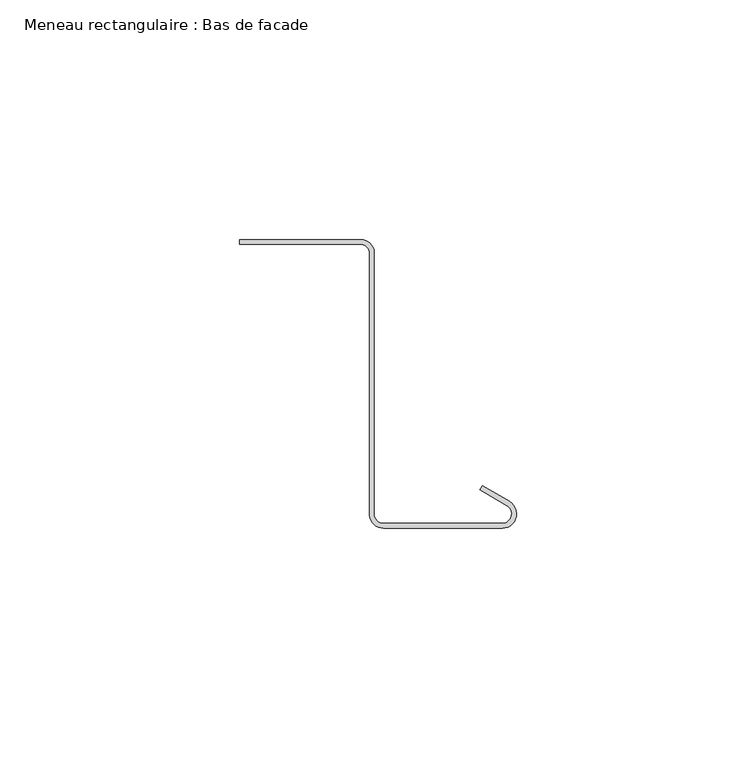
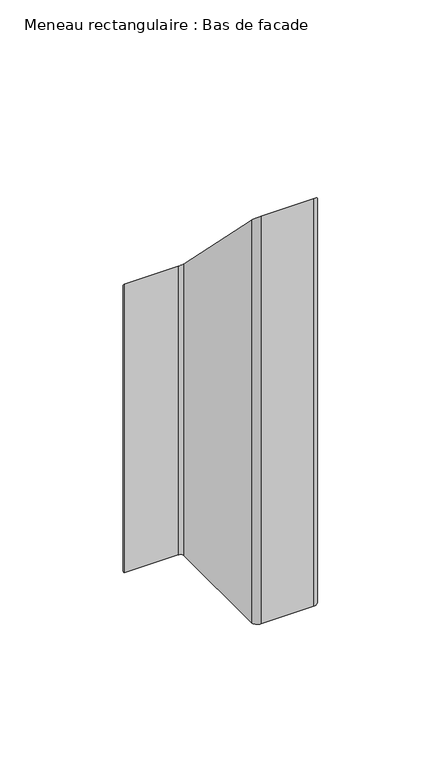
"""IFC4 building model written with IfcOpenShell, lengths in millimetres: member geometry, Meneau rectangulaire : Bas de facade."""

from ifc_helpers import new_model, si_unit, frame, origin, place, context, project, spatial, polyline, circle_curve, ellipse_curve, source, transform, mapped, element, save
from ifc_brep_helpers import plane_surface, cylinder_surface, revolved_surface, advanced_brep


def meneau_rectangulaire_bas_de_facade_f12c9721(model_context):
    return source(origin(), model_context, "Body", "AdvancedBrep", [
        advanced_brep(
        [(-32.4584179, 2.9588923, -145.0), (-29.7143802, 0.3898824, -145.0), (-29.7143802, -54.5495817, -145.0), (-27.735368, -56.2605998, -145.0), (-3.0, -56.2605998, -145.0), (-2.0, -52.528549, -145.0), (-7.6638061, -49.258549, -145.0), (-7.1638061, -48.3925235, -145.0), (-1.5, -51.6625235, -145.0), (-3.0, -57.2605998, -145.0), (-27.735368, -57.2605998, -145.0), (-30.7239521, -54.522067, -145.0), (-30.7239521, 0.4415475, -145.0), (-32.4584179, 1.9588923, -145.0), (-57.8548383, 1.9588923, -145.0), (-57.8548383, 2.9588923, -145.0), (-57.8548383, 2.9588923, -2.9588923), (-32.4584179, 2.9588923, -2.9588923), (-57.8548383, 1.9588923, -1.9588923), (-32.4584179, 1.9588923, -1.9588923), (-30.7239521, 0.4415475, -0.4415475), (-30.7239521, -54.522067, 54.522067), (-27.735368, -57.2605998, 57.2605998), (-3.0, -57.2605998, 57.2605998), (-1.5, -51.6625235, 51.6625235), (-7.1638061, -48.3925235, 48.3925235), (-7.6638061, -49.258549, 49.258549), (-2.0, -52.528549, 52.528549), (-3.0, -56.2605998, 56.2605998), (-27.735368, -56.2605998, 56.2605998), (-29.7143802, -54.5495817, 54.5495817), (-29.7143802, 0.3898824, -0.3898824)],
        [
            (0, 1, circle_curve(frame((-32.4584179, 0.2088923, -145.0), z_axis=(0.0, 0.0, -1.0), x_axis=(0.0, 1.0, 0.0)), 2.75)),
            (1, 2),
            (2, 3, circle_curve(frame((-27.735368, -54.2605998, -145.0), z_axis=(0.0, 0.0, 1.0), x_axis=(-0.9961946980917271, -0.08715574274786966, 0.0)), 2.0)),
            (3, 4),
            (4, 5, circle_curve(frame((-3.0, -54.2605998, -145.0), z_axis=(0.0, 0.0, 1.0), x_axis=(0.0, -1.0, 0.0)), 2.0)),
            (5, 6),
            (6, 7),
            (7, 8),
            (8, 9, circle_curve(frame((-3.0, -54.2605998, -145.0), z_axis=(0.0, 0.0, -1.0), x_axis=(0.0, -1.0, 0.0)), 3.0)),
            (9, 10),
            (10, 11, circle_curve(frame((-27.735368, -54.2605998, -145.0), z_axis=(0.0, 0.0, -1.0), x_axis=(-0.9961946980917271, -0.08715574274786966, 0.0)), 3.0)),
            (11, 12),
            (12, 13, circle_curve(frame((-32.4584179, 0.2088923, -145.0), z_axis=(0.0, 0.0, 1.0), x_axis=(0.0, 1.0, 0.0)), 1.75)),
            (13, 14),
            (14, 15),
            (15, 0),
            (16, 17),
            (17, 0),
            (15, 16),
            (18, 16),
            (14, 18),
            (19, 18),
            (13, 19),
            (20, 19, ellipse_curve(frame((-32.4584179, 0.2088923, -0.2088923), z_axis=(0.0, 0.7071067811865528, 0.7071067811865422), x_axis=(0.0, 0.7071067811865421, -0.7071067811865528)), 2.4748737, 1.75)),
            (12, 20),
            (21, 20),
            (11, 21),
            (22, 21, ellipse_curve(frame((-27.735368, -54.2605998, 54.2605998), z_axis=(0.0, -0.7071067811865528, -0.7071067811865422), x_axis=(0.0, -0.7071067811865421, 0.7071067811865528)), 4.2426407, 3.0)),
            (10, 22),
            (23, 22),
            (9, 23),
            (24, 23, ellipse_curve(frame((-3.0, -54.2605998, 54.2605998), z_axis=(0.0, -0.7071067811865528, -0.7071067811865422), x_axis=(0.0, -0.7071067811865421, 0.7071067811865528)), 4.2426407, 3.0)),
            (8, 24),
            (25, 24),
            (7, 25),
            (26, 25),
            (6, 26),
            (27, 26),
            (5, 27),
            (28, 27, ellipse_curve(frame((-3.0, -54.2605998, 54.2605998), z_axis=(0.0, 0.7071067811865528, 0.7071067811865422), x_axis=(0.0, 0.7071067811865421, -0.7071067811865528)), 2.8284271, 2.0)),
            (4, 28),
            (29, 28),
            (3, 29),
            (30, 29, ellipse_curve(frame((-27.735368, -54.2605998, 54.2605998), z_axis=(0.0, 0.7071067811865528, 0.7071067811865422), x_axis=(0.0, 0.7071067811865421, -0.7071067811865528)), 2.8284271, 2.0)),
            (2, 30),
            (31, 30),
            (1, 31),
            (17, 31, ellipse_curve(frame((-32.4584179, 0.2088923, -0.2088923), z_axis=(0.0, -0.7071067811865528, -0.7071067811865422), x_axis=(0.0, -0.7071067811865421, 0.7071067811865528)), 3.8890873, 2.75)),
        ],
        [
            plane_surface(frame((0.0, -63.8351035, -145.0), z_axis=(0.0, 0.0, -1.0), x_axis=(-1.0, 0.0, 0.0))),
            plane_surface(frame((-32.4584179, 2.9588923, 0.0), z_axis=(0.0, 1.0, 0.0), x_axis=(0.0, 0.0, -1.0))),
            plane_surface(frame((-57.8548383, 2.9588923, 0.0), z_axis=(-1.0, 0.0, 0.0), x_axis=(0.0, 0.0, -1.0))),
            plane_surface(frame((-57.8548383, 1.9588923, 0.0), z_axis=(0.0, -1.0, 0.0), x_axis=(0.0, 0.0, -1.0))),
            revolved_surface(polyline([(-32.4584179, 1.9588923, -145.0), (-32.4584179, 1.9588923, 1.5411076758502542)]), (-32.4584179, 0.2088923, 0.0), (0.0, 0.0, -1.0)),
            plane_surface(frame((-30.7239521, 0.4415475, 0.0), z_axis=(-1.0, 0.0, 0.0), x_axis=(0.0, 0.0, -1.0))),
            cylinder_surface(frame((-27.735368, -54.2605998, 0.0), z_axis=(0.0, 0.0, 1.0000000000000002), x_axis=(-0.9961946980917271, -0.08715574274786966, 0.0)), 3.0),
            plane_surface(frame((-27.735368, -57.2605998, 0.0), z_axis=(0.0, -1.0, 0.0), x_axis=(0.0, 0.0, -1.0))),
            cylinder_surface(frame((-3.0, -54.2605998, 0.0), z_axis=(0.0, 0.0, 1.0), x_axis=(0.0, -1.0, 0.0)), 3.0),
            plane_surface(frame((-1.5, -51.6625235, 0.0), z_axis=(0.5000000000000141, 0.8660254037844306, 0.0), x_axis=(0.0, 0.0, -1.0))),
            plane_surface(frame((-7.1638061, -48.3925235, 0.0), z_axis=(-0.8660254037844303, 0.5000000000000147, 0.0), x_axis=(0.0, 0.0, -1.0))),
            plane_surface(frame((-7.6638061, -49.258549, 0.0), z_axis=(-0.500000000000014, -0.8660254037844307, 0.0), x_axis=(0.0, 0.0, -1.0))),
            revolved_surface(polyline([(-3.0, -56.2605998, -145.0), (-3.0, -56.2605998, 56.2605998)]), (-3.0, -54.2605998, 0.0), (0.0, 0.0, -1.0)),
            plane_surface(frame((-3.0, -56.2605998, 0.0), z_axis=(0.0, 1.0, 0.0), x_axis=(0.0, 0.0, -1.0))),
            revolved_surface(polyline([(-29.727757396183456, -54.434911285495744, -145.00000000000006), (-29.727757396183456, -54.434911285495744, 56.26059980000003)]), (-27.735368, -54.2605998, 0.0), (0.0, 0.0, -1.0000000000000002)),
            plane_surface(frame((-29.7143802, -54.5495817, 0.0), z_axis=(1.0, 0.0, 0.0), x_axis=(0.0, 0.0, -1.0))),
            cylinder_surface(frame((-32.4584179, 0.2088923, 0.0), z_axis=(0.0, 0.0, 1.0), x_axis=(0.0, 1.0, 0.0)), 2.75),
            plane_surface(frame((-304.8, 0.0, 0.0), z_axis=(0.0, 0.7071067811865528, 0.7071067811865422), x_axis=(0.0, 0.7071067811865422, -0.7071067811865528))),
        ],
        [
            (0, [[1, 2, 3, 4, 5, 6, 7, 8, 9, 10, 11, 12, 13, 14, 15, 16]]),
            (1, [[17, 18, -16, 19]]),
            (2, [[20, -19, -15, 21]]),
            (3, [[22, -21, -14, 23]]),
            (4, [[24, -23, -13, 25]]),
            (5, [[26, -25, -12, 27]]),
            (6, [[28, -27, -11, 29]]),
            (7, [[30, -29, -10, 31]]),
            (8, [[32, -31, -9, 33]]),
            (9, [[34, -33, -8, 35]]),
            (10, [[36, -35, -7, 37]]),
            (11, [[38, -37, -6, 39]]),
            (12, [[40, -39, -5, 41]]),
            (13, [[42, -41, -4, 43]]),
            (14, [[44, -43, -3, 45]]),
            (15, [[46, -45, -2, 47]]),
            (16, [[48, -47, -1, -18]]),
            (17, [[-17, -20, -22, -24, -26, -28, -30, -32, -34, -36, -38, -40, -42, -44, -46, -48]]),
        ],
    ),
    ])


if __name__ == "__main__":
    model = new_model("IFC4")
    model_context = context("Model", 3, world=origin())
    ifc_project = project(units=[si_unit("LENGTHUNIT", "METRE", prefix="MILLI")], contexts=[model_context])
    site = spatial("IfcSite", under=ifc_project)
    building = spatial("IfcBuilding", under=site)
    placement = place(None, origin())
    meneau_rectangulaire_bas_de_facade_shape = meneau_rectangulaire_bas_de_facade_f12c9721(model_context)
    element("IfcMember", 1, ObjectType="Meneau rectangulaire : Bas de facade", at=placement, inside=building, context=model_context, shape_type="MappedRepresentation", body=[
        mapped(meneau_rectangulaire_bas_de_facade_shape, transform((0.0, 0.0, 0.0), x_axis=(1.0, 0.0, 0.0), y_axis=(0.0, 1.0, 0.0), z_axis=(0.0, 0.0, 1.0))),
    ])
    save(model, "model.ifc")
